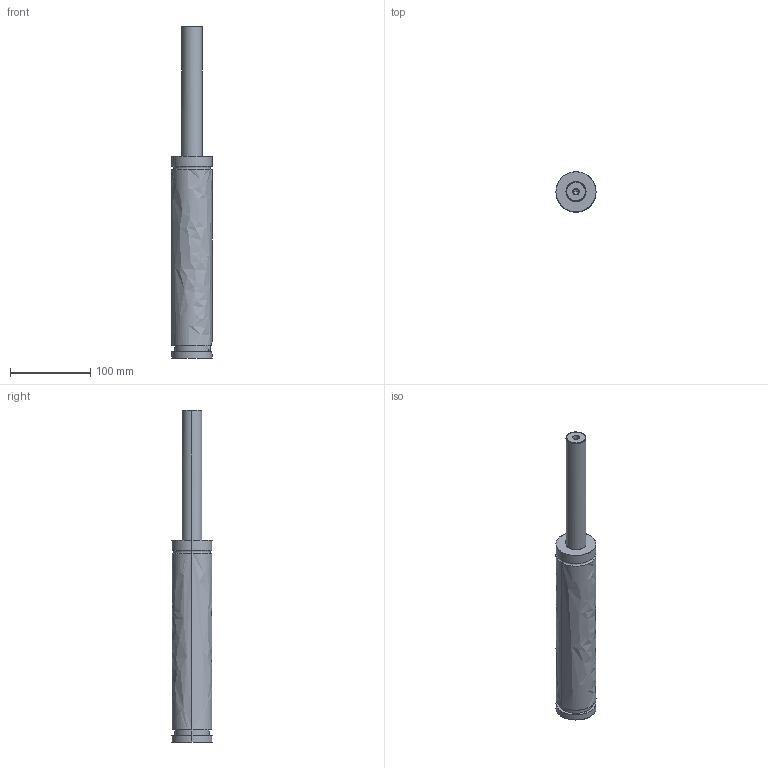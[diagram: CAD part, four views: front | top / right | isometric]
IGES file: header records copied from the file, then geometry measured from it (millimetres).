
Global section: file name: E:\UnigraphicsGraphicData\MISUMI_PRESS-PARTS\IGES\3d_gse50-160_03877_r00.igs; native system: NX V5.0; preprocessor: UGS NX IGES V5.0; author: MISUMI; date: 20110105.160759; units: millimetre
Bounding box: 50 x 50 x 415 mm (x, y, z)
Surface area: 58830.3 mm2 (no closed solid volume)
Topology: 0 solids, 0 shells, 57 faces, 453 edges, 451 vertices
Faces by surface type: bspline 57
